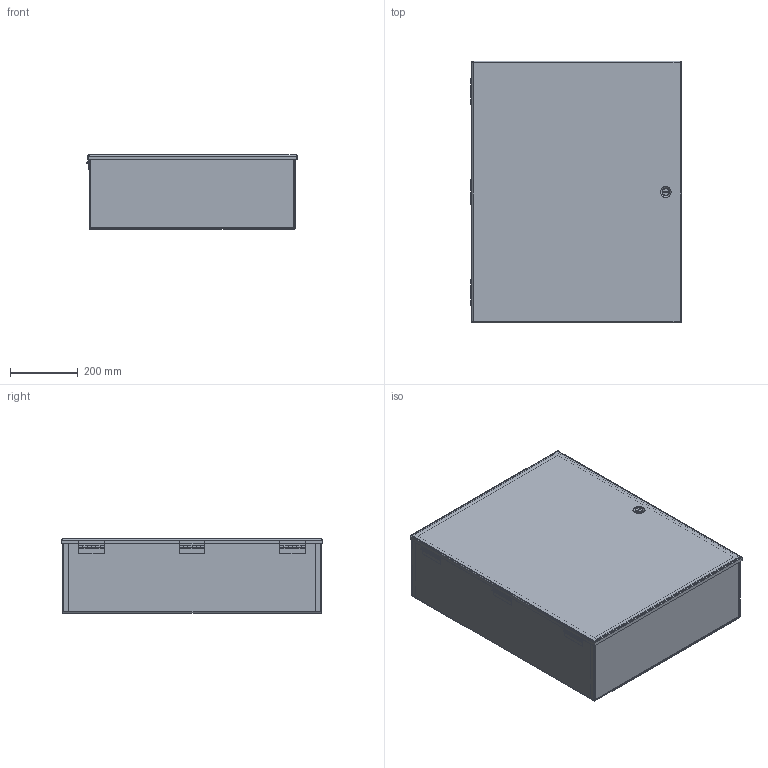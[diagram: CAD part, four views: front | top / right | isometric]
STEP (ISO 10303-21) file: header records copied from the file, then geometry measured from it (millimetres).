
FILE_DESCRIPTION (( 'STEP AP203' ), '1' );
FILE_NAME ('a30n24blp.STEP', '2010-02-04T16:31:44', ( 'Hoffman User' ), ( 'Hoffman Enclosures' ), 'SwSTEP 2.0', 'SolidWorks 2009', '' );
FILE_SCHEMA (( 'CONFIG_CONTROL_DESIGN' ));
Length unit declared in the file: inch
Products named in the file (12): A1M_WmtBody_30x24x8.62; A1M_WmtDoor_30x24; A1M_Door_30x24; a30n24blp; A1M_Body_30x24x8.62; A1M_End_24x8.62; 2211202_stud collar .375-16x.5; Panel_MedType1_A30N24MP; assy_hinge_14102001; hinge_side_3in; Cam_43335002; insert_43335002
Assembly tree (20 placements, depth 4):
  a30n24blp
    Panel_MedType1_A30N24MP
    A1M_WmtBody_30x24x8.62
      2211202_stud collar .375-16x.5  x6
      A1M_Body_30x24x8.62
      A1M_End_24x8.62  x2
    A1M_WmtDoor_30x24
      assy_hinge_14102001  x3
        hinge_side_3in
      A1M_Door_30x24
      Cam_43335002
      insert_43335002
Bounding box: 621.8 x 771.91 x 218.95 mm (x, y, z)
Volume: 3788597.4 mm3; surface area: 4041125 mm2
Topology: 19 solids, 19 shells, 608 faces, 1461 edges, 914 vertices
Faces by surface type: plane 302, cylinder 211, torus 48, cone 25, bspline 16, sphere 6
Entity records: 10169 total; most frequent: CARTESIAN_POINT 2215, DIRECTION 1377, ORIENTED_EDGE 1286, EDGE_CURVE 643, AXIS2_PLACEMENT_3D 482, VECTOR 413, LINE 413, VERTEX_POINT 392
